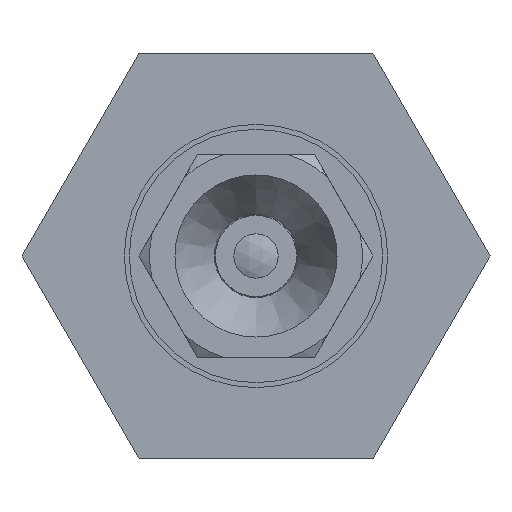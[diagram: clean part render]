
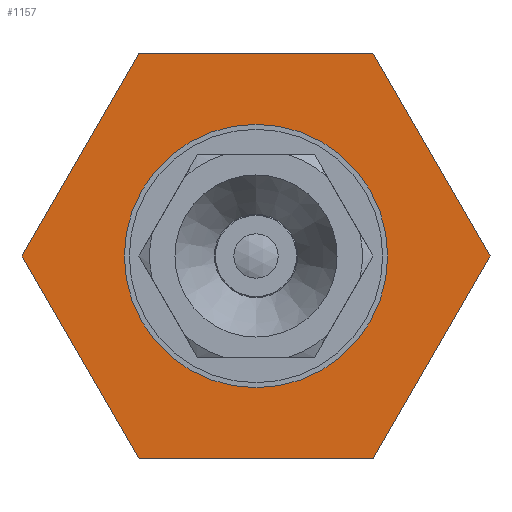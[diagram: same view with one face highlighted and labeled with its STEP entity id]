
A CAD part, front view. The second image highlights one B-rep face of the part: STEP entity #1157.
In plain terms, the highlighted planar face has unit normal (0, -1, 0) as drawn and (-1, 0, 0) by its records, which use the part's own axes.
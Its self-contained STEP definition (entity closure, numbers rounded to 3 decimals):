
#52=LINE('',#2388,#88);
#55=LINE('',#2394,#91);
#58=LINE('',#2400,#94);
#61=LINE('',#2406,#97);
#64=LINE('',#2412,#100);
#67=LINE('',#2417,#103);
#88=VECTOR('',#1971,1000.);
#91=VECTOR('',#1976,1000.);
#94=VECTOR('',#1981,1000.);
#97=VECTOR('',#1986,1000.);
#100=VECTOR('',#1991,1000.);
#103=VECTOR('',#1996,1000.);
#173=PLANE('',#1721);
#350=ORIENTED_EDGE('',*,*,#540,.F.);
#351=ORIENTED_EDGE('',*,*,#539,.F.);
#352=ORIENTED_EDGE('',*,*,#536,.F.);
#353=ORIENTED_EDGE('',*,*,#533,.F.);
#354=ORIENTED_EDGE('',*,*,#530,.F.);
#355=ORIENTED_EDGE('',*,*,#527,.F.);
#356=ORIENTED_EDGE('',*,*,#524,.F.);
#524=EDGE_CURVE('',#637,#638,#52,.T.);
#527=EDGE_CURVE('',#638,#640,#55,.T.);
#530=EDGE_CURVE('',#640,#642,#58,.T.);
#533=EDGE_CURVE('',#642,#644,#61,.T.);
#536=EDGE_CURVE('',#644,#646,#64,.T.);
#539=EDGE_CURVE('',#646,#637,#67,.T.);
#540=EDGE_CURVE('',#647,#647,#723,.T.);
#637=VERTEX_POINT('',#2387);
#638=VERTEX_POINT('',#2389);
#640=VERTEX_POINT('',#2395);
#642=VERTEX_POINT('',#2401);
#644=VERTEX_POINT('',#2407);
#646=VERTEX_POINT('',#2413);
#647=VERTEX_POINT('',#2420);
#723=CIRCLE('',#1722,6.5);
#827=EDGE_LOOP('',(#350));
#828=EDGE_LOOP('',(#351,#352,#353,#354,#355,#356));
#990=FACE_BOUND('',#827,.T.);
#991=FACE_BOUND('',#828,.T.);
#1157=ADVANCED_FACE('',(#990,#991),#173,.F.);
#1721=AXIS2_PLACEMENT_3D('',#2418,#1997,#1998);
#1722=AXIS2_PLACEMENT_3D('',#2419,#1999,#2000);
#1971=DIRECTION('',(0.,-0.5,0.866));
#1976=DIRECTION('',(0.,-1.,0.));
#1981=DIRECTION('',(0.,-0.5,-0.866));
#1986=DIRECTION('',(0.,0.5,-0.866));
#1991=DIRECTION('',(0.,1.,0.));
#1996=DIRECTION('',(0.,0.5,0.866));
#1997=DIRECTION('',(1.,0.,0.));
#1998=DIRECTION('',(0.,0.,-1.));
#1999=DIRECTION('',(-1.,0.,0.));
#2000=DIRECTION('',(0.,0.,1.));
#2387=CARTESIAN_POINT('',(8.,11.547,0.));
#2388=CARTESIAN_POINT('',(8.,11.547,0.));
#2389=CARTESIAN_POINT('',(8.,5.774,10.));
#2394=CARTESIAN_POINT('',(8.,5.774,10.));
#2395=CARTESIAN_POINT('',(8.,-5.774,10.));
#2400=CARTESIAN_POINT('',(8.,-5.774,10.));
#2401=CARTESIAN_POINT('',(8.,-11.547,0.));
#2406=CARTESIAN_POINT('',(8.,-11.547,0.));
#2407=CARTESIAN_POINT('',(8.,-5.774,-10.));
#2412=CARTESIAN_POINT('',(8.,-5.774,-10.));
#2413=CARTESIAN_POINT('',(8.,5.774,-10.));
#2417=CARTESIAN_POINT('',(8.,5.774,-10.));
#2418=CARTESIAN_POINT('',(8.,0.,12.5));
#2419=CARTESIAN_POINT('',(8.,0.,0.));
#2420=CARTESIAN_POINT('',(8.,0.,6.5));
